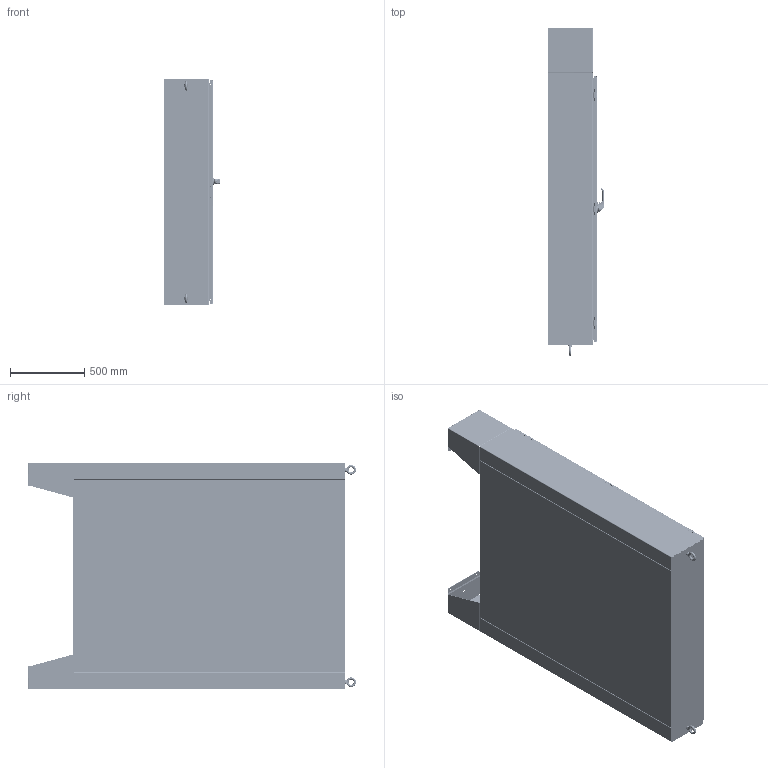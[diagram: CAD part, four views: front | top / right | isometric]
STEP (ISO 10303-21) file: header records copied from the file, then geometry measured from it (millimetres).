
FILE_DESCRIPTION((''),'2;1');
FILE_NAME('MODEL-151_ASM','2025-05-13T09:17:13',('johnh'),('SAGINAW CONTROL & ENGINEERING'),'CREO PARAMETRIC BY PTC INC, 2021284','CREO PARAMETRIC BY PTC INC, 2021284','');
FILE_SCHEMA(('AUTOMOTIVE_DESIGN { 1 0 10303 214 1 1 1 1 }'));
Length unit declared in the file: inch
Products named in the file (72): MODEL-151-BTM; MODEL-151-RS; MODEL-151-LS; MODEL-151-TP; MODEL-151-BCK; MODEL-151-MSTR; 100837; 111267; 100882; 100955_SCREW_MTG; 100955_PADLOCK_CATCH; 100955_SCREW_LARGE; 100955_INSERT_SHAFT; 100955_INSERT_PKH; 100955_GASKET; 100955_O-RING; 100955_BASE; 100955_SPRING; 100955_HANDLE; 100955_CAM_SHAFT; 100955_HANDLE_ASM; 100955_CAM_ADAPTER; 100955_EARTH_NUT; 100955_FLANGE_NUT; 100955_CAM_NUT; 100955_KEY_INSERT; 100955_SPRING_CAM; 100955_TORSION_SPRING; 100955_SCREW_INSERT; 100955_ASM; 102236; 100030; 102236_ASM; MODEL-151-ROD-UPR; 128146; 128145; 128144; 102482; MODEL-151-ROD-UPR_ASM; 128143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
Assembly tree (151 placements, depth 5):
  MODEL-151_ASM
    MODEL-151-BTM
    MODEL-151-RS
    MODEL-151-LS
    MODEL-151-TP
    MODEL-151-BCK
    MODEL-151-MASTER-DR-ASSY_ASM
      MODEL-151-MSTR
      100837  x5
      111267
      100882  x10
      100955_ASM
        100955_SCREW_MTG
        100955_PADLOCK_CATCH
        100955_SCREW_LARGE  x2
        100955_INSERT_SHAFT
        100955_INSERT_PKH
        100955_GASKET
        100955_O-RING
        100955_BASE
        100955_SPRING
        100955_HANDLE_ASM
          100955_HANDLE
          100955_CAM_SHAFT
        100955_CAM_ADAPTER
        100955_EARTH_NUT
        100955_FLANGE_NUT
        100955_CAM_NUT
        100955_KEY_INSERT
        100955_SPRING_CAM
        100955_TORSION_SPRING
        100955_SCREW_INSERT
      102236_ASM
        102236
        100030  x2
      MODEL-151-ROD-UPR_ASM
        MODEL-151-ROD-UPR
        128146
        128145
        128144
        102482  x2
      128143  x2
      112504  x2
      MODEL-151-ROD-LWR_ASM
        MODEL-151-ROD-LWR
        128146
        128145
        128144
        102482  x2
      MODEL-151-PR-GSKT-M
      128257_ASM  x3
        128257
      126393  x3
      102483  x3
      101369_ASM  x3
        101369
        101369-STUD
      101221  x3
    MODEL-151-SLAVE-DR-ASSY_ASM
      MODEL-151-SLV
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Bounding box: 383.05 x 2208.4 x 1524 mm (x, y, z)
Volume: 33582707.2 mm3; surface area: 24030486.5 mm2
Topology: 161 solids, 161 shells, 15057 faces, 38652 edges, 23977 vertices
Faces by surface type: plane 5194, cylinder 3983, bspline 3696, torus 1059, cone 757, sphere 338, extrusion 30
Entity records: 398928 total; most frequent: CARTESIAN_POINT 156646, ORIENTED_EDGE 36586, DIRECTION 33463, PRESENTATION_STYLE_ASSIGNMENT 19362, STYLED_ITEM 19357, EDGE_CURVE 18293, CURVE_STYLE 18245, AXIS2_PLACEMENT_3D 12504
